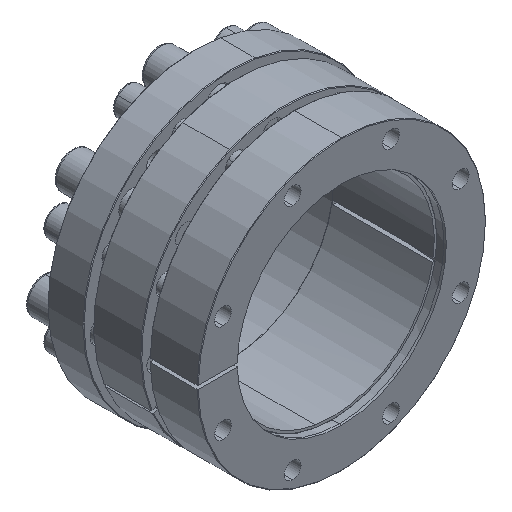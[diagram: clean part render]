
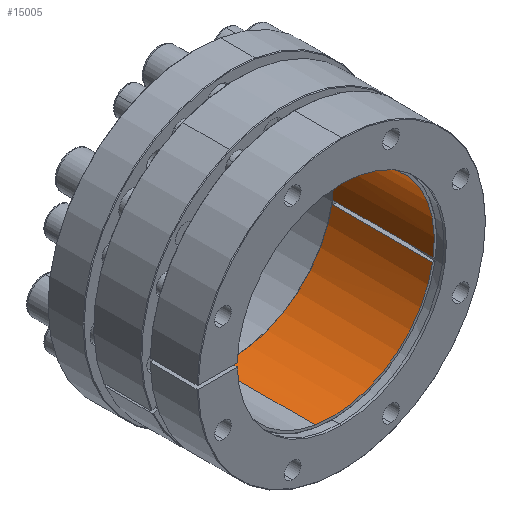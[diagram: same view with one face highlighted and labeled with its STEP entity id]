
A CAD part, isometric view. The second image highlights one B-rep face of the part: STEP entity #15005.
In plain terms, the highlighted cylindrical face has radius 85 mm (diameter 170 mm), a partial arc.
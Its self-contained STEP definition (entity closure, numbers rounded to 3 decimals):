
#665 = CIRCLE ( 'NONE', #5390, 85. ) ;
#1088 = VERTEX_POINT ( 'NONE', #12092 ) ;
#1446 = DIRECTION ( 'NONE',  ( 0.165, 0., 0.986 ) ) ;
#1907 = ORIENTED_EDGE ( 'NONE', *, *, #3177, .F. ) ;
#1967 = VECTOR ( 'NONE', #29937, 1000. ) ;
#2082 = CARTESIAN_POINT ( 'NONE',  ( -14.029, 91.999, -83.834 ) ) ;
#2160 = CARTESIAN_POINT ( 'NONE',  ( -14.029, 94.176, -83.834 ) ) ;
#2701 = DIRECTION ( 'NONE',  ( 0., 1., 0. ) ) ;
#2814 = CARTESIAN_POINT ( 'NONE',  ( 0., 7.999, 0. ) ) ;
#3177 = EDGE_CURVE ( 'NONE', #7215, #24336, #9344, .T. ) ;
#4123 = AXIS2_PLACEMENT_3D ( 'NONE', #28718, #30866, #26373 ) ;
#4857 = LINE ( 'NONE', #2160, #17907 ) ;
#5010 = VECTOR ( 'NONE', #13823, 1000. ) ;
#5292 = DIRECTION ( 'NONE',  ( 0.165, 0., 0.986 ) ) ;
#5390 = AXIS2_PLACEMENT_3D ( 'NONE', #30782, #16115, #1446 ) ;
#6314 = ORIENTED_EDGE ( 'NONE', *, *, #13863, .F. ) ;
#6520 = AXIS2_PLACEMENT_3D ( 'NONE', #26735, #12006, #29172 ) ;
#6834 = ORIENTED_EDGE ( 'NONE', *, *, #10507, .T. ) ;
#7215 = VERTEX_POINT ( 'NONE', #13106 ) ;
#7321 = ORIENTED_EDGE ( 'NONE', *, *, #13596, .F. ) ;
#9121 = CARTESIAN_POINT ( 'NONE',  ( 83.574, 91.499, -15.506 ) ) ;
#9171 = ORIENTED_EDGE ( 'NONE', *, *, #28725, .T. ) ;
#9344 = CIRCLE ( 'NONE', #6520, 85. ) ;
#9913 = AXIS2_PLACEMENT_3D ( 'NONE', #2814, #19967, #5292 ) ;
#10507 = EDGE_CURVE ( 'NONE', #1088, #26370, #24720, .T. ) ;
#11049 = CARTESIAN_POINT ( 'NONE',  ( -14.029, 7.999, -83.834 ) ) ;
#12006 = DIRECTION ( 'NONE',  ( 0., 1., 0. ) ) ;
#12092 = CARTESIAN_POINT ( 'NONE',  ( 14.029, 91.999, 83.834 ) ) ;
#12301 = CARTESIAN_POINT ( 'NONE',  ( 84.069, 94.176, -12.547 ) ) ;
#13106 = CARTESIAN_POINT ( 'NONE',  ( 84.069, 91.499, -12.547 ) ) ;
#13596 = EDGE_CURVE ( 'NONE', #22231, #19835, #665, .T. ) ;
#13823 = DIRECTION ( 'NONE',  ( 0., -1., 0. ) ) ;
#13863 = EDGE_CURVE ( 'NONE', #24985, #7215, #15388, .T. ) ;
#15005 = ADVANCED_FACE ( 'NONE', ( #16210 ), #19652, .F. ) ;
#15388 = LINE ( 'NONE', #12301, #27700 ) ;
#15547 = CIRCLE ( 'NONE', #9913, 85. ) ;
#16115 = DIRECTION ( 'NONE',  ( 0., 1., 0. ) ) ;
#16210 = FACE_OUTER_BOUND ( 'NONE', #28121, .T. ) ;
#16773 = AXIS2_PLACEMENT_3D ( 'NONE', #17389, #2701, #19855 ) ;
#17389 = CARTESIAN_POINT ( 'NONE',  ( 0., 91.999, 0. ) ) ;
#17616 = CARTESIAN_POINT ( 'NONE',  ( 14.029, 7.999, 83.834 ) ) ;
#17907 = VECTOR ( 'NONE', #31373, 1000. ) ;
#18486 = ORIENTED_EDGE ( 'NONE', *, *, #31215, .F. ) ;
#18803 = CARTESIAN_POINT ( 'NONE',  ( 83.574, 94.176, -15.506 ) ) ;
#18818 = EDGE_CURVE ( 'NONE', #19835, #26370, #4857, .T. ) ;
#19652 = CYLINDRICAL_SURFACE ( 'NONE', #4123, 85. ) ;
#19779 = CARTESIAN_POINT ( 'NONE',  ( 83.574, 7.999, -15.506 ) ) ;
#19835 = VERTEX_POINT ( 'NONE', #11049 ) ;
#19855 = DIRECTION ( 'NONE',  ( 0.165, 0., 0.986 ) ) ;
#19967 = DIRECTION ( 'NONE',  ( 0., 1., 0. ) ) ;
#20458 = ORIENTED_EDGE ( 'NONE', *, *, #24313, .F. ) ;
#20765 = LINE ( 'NONE', #27506, #1967 ) ;
#22092 = DIRECTION ( 'NONE',  ( 0., 1., 0. ) ) ;
#22231 = VERTEX_POINT ( 'NONE', #19779 ) ;
#23163 = ORIENTED_EDGE ( 'NONE', *, *, #18818, .F. ) ;
#24313 = EDGE_CURVE ( 'NONE', #24336, #22231, #29539, .T. ) ;
#24336 = VERTEX_POINT ( 'NONE', #9121 ) ;
#24720 = CIRCLE ( 'NONE', #16773, 85. ) ;
#24985 = VERTEX_POINT ( 'NONE', #27801 ) ;
#26370 = VERTEX_POINT ( 'NONE', #2082 ) ;
#26373 = DIRECTION ( 'NONE',  ( 0.165, 0., 0.986 ) ) ;
#26735 = CARTESIAN_POINT ( 'NONE',  ( 0., 91.499, 0. ) ) ;
#27506 = CARTESIAN_POINT ( 'NONE',  ( 14.029, 94.176, 83.834 ) ) ;
#27700 = VECTOR ( 'NONE', #22092, 1000. ) ;
#27801 = CARTESIAN_POINT ( 'NONE',  ( 84.069, 7.999, -12.547 ) ) ;
#28121 = EDGE_LOOP ( 'NONE', ( #23163, #7321, #20458, #1907, #6314, #18486, #9171, #6834 ) ) ;
#28718 = CARTESIAN_POINT ( 'NONE',  ( 0., 94.176, 0. ) ) ;
#28725 = EDGE_CURVE ( 'NONE', #28738, #1088, #20765, .T. ) ;
#28738 = VERTEX_POINT ( 'NONE', #17616 ) ;
#29172 = DIRECTION ( 'NONE',  ( 0.165, 0., 0.986 ) ) ;
#29539 = LINE ( 'NONE', #18803, #5010 ) ;
#29937 = DIRECTION ( 'NONE',  ( 0., 1., 0. ) ) ;
#30782 = CARTESIAN_POINT ( 'NONE',  ( 0., 7.999, 0. ) ) ;
#30866 = DIRECTION ( 'NONE',  ( 0., 1., 0. ) ) ;
#31215 = EDGE_CURVE ( 'NONE', #28738, #24985, #15547, .T. ) ;
#31373 = DIRECTION ( 'NONE',  ( 0., 1., 0. ) ) ;
